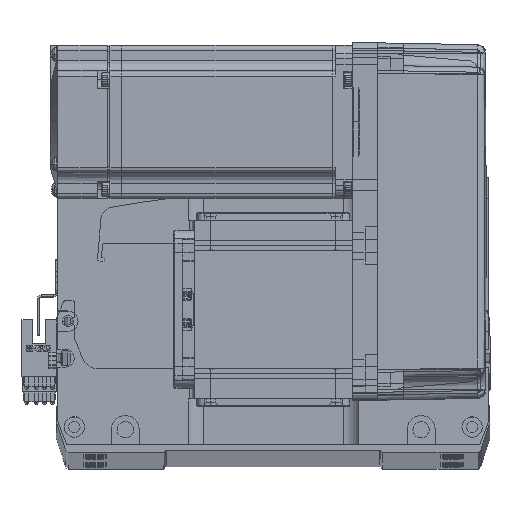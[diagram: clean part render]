
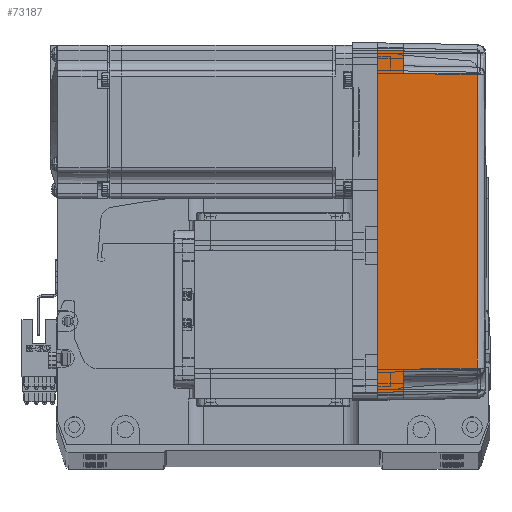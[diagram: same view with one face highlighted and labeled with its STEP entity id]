
A CAD part, top view. The second image highlights one B-rep face of the part: STEP entity #73187.
In plain terms, the highlighted planar face has unit normal (0.018, 0, 1) as drawn and (0, -1, 0.017) by its records, which use the part's own axes.
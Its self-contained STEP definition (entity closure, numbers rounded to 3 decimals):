
#104 = DIRECTION ( 'NONE',  ( -1., 0., 0. ) ) ;
#210 = VECTOR ( 'NONE', #70317, 1000. ) ;
#1778 = LINE ( 'NONE', #6150, #69714 ) ;
#4337 = DIRECTION ( 'NONE',  ( 0., -0.017, -1. ) ) ;
#5613 = EDGE_CURVE ( 'NONE', #23591, #31419, #34827, .T. ) ;
#6150 = CARTESIAN_POINT ( 'NONE',  ( 70., -35.825, 10. ) ) ;
#9159 = CARTESIAN_POINT ( 'NONE',  ( -57.495, -35.32, 38.985 ) ) ;
#9876 = LINE ( 'NONE', #24738, #53691 ) ;
#10399 = CARTESIAN_POINT ( 'NONE',  ( 57.495, -35.32, 38.985 ) ) ;
#11515 = CARTESIAN_POINT ( 'NONE',  ( -57.495, -35.32, 38.985 ) ) ;
#12384 = LINE ( 'NONE', #11515, #15935 ) ;
#14665 = VECTOR ( 'NONE', #55778, 1000. ) ;
#15935 = VECTOR ( 'NONE', #31276, 1000. ) ;
#16424 = ORIENTED_EDGE ( 'NONE', *, *, #36561, .T. ) ;
#16843 = VECTOR ( 'NONE', #71148, 1000. ) ;
#17945 = EDGE_LOOP ( 'NONE', ( #44483, #18498, #22849, #48466, #16424, #20667, #68489, #21404 ) ) ;
#18498 = ORIENTED_EDGE ( 'NONE', *, *, #44624, .T. ) ;
#19093 = CARTESIAN_POINT ( 'NONE',  ( -67., -36., 0. ) ) ;
#20667 = ORIENTED_EDGE ( 'NONE', *, *, #41882, .T. ) ;
#21404 = ORIENTED_EDGE ( 'NONE', *, *, #73403, .F. ) ;
#21800 = CARTESIAN_POINT ( 'NONE',  ( 70., -36., 0. ) ) ;
#22849 = ORIENTED_EDGE ( 'NONE', *, *, #52716, .T. ) ;
#23037 = LINE ( 'NONE', #54305, #32028 ) ;
#23225 = B_SPLINE_CURVE_WITH_KNOTS ( 'NONE', 3,
 ( #61101, #53418, #60851, #59354 ),
 .UNSPECIFIED., .F., .F.,
 ( 4, 4 ),
 ( 0., 1. ),
 .UNSPECIFIED. ) ;
#23591 = VERTEX_POINT ( 'NONE', #19093 ) ;
#24738 = CARTESIAN_POINT ( 'NONE',  ( 70., -35.825, 10. ) ) ;
#25430 = FACE_OUTER_BOUND ( 'NONE', #17945, .T. ) ;
#26570 = VERTEX_POINT ( 'NONE', #61638 ) ;
#31138 = DIRECTION ( 'NONE',  ( -0.017, 0.017, 1. ) ) ;
#31276 = DIRECTION ( 'NONE',  ( -0.017, -0.017, -1. ) ) ;
#31419 = VERTEX_POINT ( 'NONE', #36768 ) ;
#32028 = VECTOR ( 'NONE', #31138, 1000. ) ;
#34067 = CARTESIAN_POINT ( 'NONE',  ( -66.959, -35.958, 2.39 ) ) ;
#34827 = LINE ( 'NONE', #34067, #16843 ) ;
#36561 = EDGE_CURVE ( 'NONE', #47954, #46946, #12384, .T. ) ;
#36598 = VERTEX_POINT ( 'NONE', #45030 ) ;
#36768 = CARTESIAN_POINT ( 'NONE',  ( -66.826, -35.825, 10. ) ) ;
#38637 = CARTESIAN_POINT ( 'NONE',  ( 67., -36., 0. ) ) ;
#41882 = EDGE_CURVE ( 'NONE', #46946, #31419, #1778, .T. ) ;
#43613 = CARTESIAN_POINT ( 'NONE',  ( -58., -35.825, 10. ) ) ;
#44483 = ORIENTED_EDGE ( 'NONE', *, *, #63582, .T. ) ;
#44624 = EDGE_CURVE ( 'NONE', #26570, #36598, #9876, .T. ) ;
#45030 = CARTESIAN_POINT ( 'NONE',  ( 58., -35.825, 10. ) ) ;
#46891 = LINE ( 'NONE', #38637, #14665 ) ;
#46946 = VERTEX_POINT ( 'NONE', #43613 ) ;
#47954 = VERTEX_POINT ( 'NONE', #9159 ) ;
#48466 = ORIENTED_EDGE ( 'NONE', *, *, #59646, .T. ) ;
#50559 = DIRECTION ( 'NONE',  ( 0., -1., 0.017 ) ) ;
#52554 = CARTESIAN_POINT ( 'NONE',  ( 67., -36., 0. ) ) ;
#52716 = EDGE_CURVE ( 'NONE', #36598, #64709, #23037, .T. ) ;
#53394 = CARTESIAN_POINT ( 'NONE',  ( 0., -36., 0. ) ) ;
#53418 = CARTESIAN_POINT ( 'NONE',  ( 19.165, -35.316, 39.181 ) ) ;
#53691 = VECTOR ( 'NONE', #69874, 1000. ) ;
#54305 = CARTESIAN_POINT ( 'NONE',  ( 58., -35.825, 10. ) ) ;
#55778 = DIRECTION ( 'NONE',  ( -0.017, 0.017, 1. ) ) ;
#56000 = PLANE ( 'NONE',  #61877 ) ;
#59354 = CARTESIAN_POINT ( 'NONE',  ( -57.495, -35.32, 38.985 ) ) ;
#59646 = EDGE_CURVE ( 'NONE', #64709, #47954, #23225, .T. ) ;
#60851 = CARTESIAN_POINT ( 'NONE',  ( -19.165, -35.316, 39.181 ) ) ;
#61101 = CARTESIAN_POINT ( 'NONE',  ( 57.495, -35.32, 38.985 ) ) ;
#61638 = CARTESIAN_POINT ( 'NONE',  ( 66.826, -35.825, 10. ) ) ;
#61877 = AXIS2_PLACEMENT_3D ( 'NONE', #21800, #50559, #4337 ) ;
#62782 = LINE ( 'NONE', #53394, #210 ) ;
#63582 = EDGE_CURVE ( 'NONE', #67670, #26570, #46891, .T. ) ;
#64709 = VERTEX_POINT ( 'NONE', #10399 ) ;
#67670 = VERTEX_POINT ( 'NONE', #52554 ) ;
#68489 = ORIENTED_EDGE ( 'NONE', *, *, #5613, .F. ) ;
#69714 = VECTOR ( 'NONE', #104, 1000. ) ;
#69874 = DIRECTION ( 'NONE',  ( -1., 0., 0. ) ) ;
#70317 = DIRECTION ( 'NONE',  ( -1., 0., 0. ) ) ;
#71148 = DIRECTION ( 'NONE',  ( 0.017, 0.017, 1. ) ) ;
#73187 = ADVANCED_FACE ( 'NONE', ( #25430 ), #56000, .T. ) ;
#73403 = EDGE_CURVE ( 'NONE', #67670, #23591, #62782, .T. ) ;
